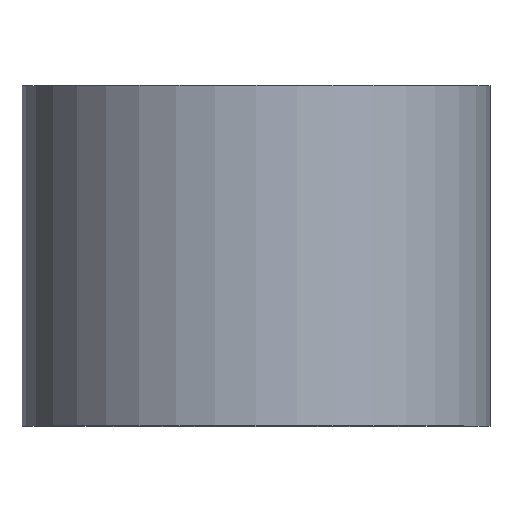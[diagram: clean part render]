
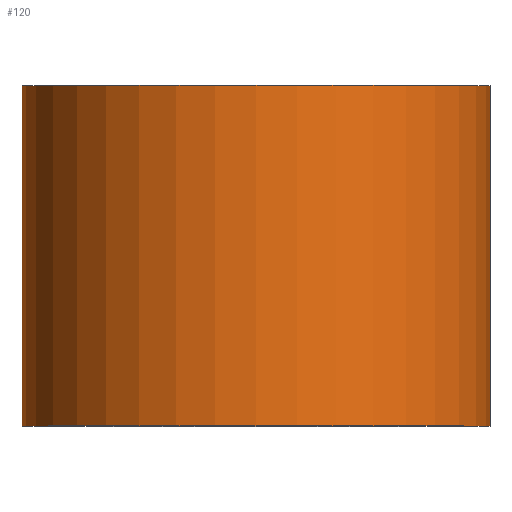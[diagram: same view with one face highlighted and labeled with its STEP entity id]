
A CAD part, top view. The second image highlights one B-rep face of the part: STEP entity #120.
In plain terms, the highlighted cylindrical face has radius 11 mm (diameter 22 mm), a partial arc.
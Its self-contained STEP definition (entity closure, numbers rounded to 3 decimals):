
#5 = EDGE_CURVE ( 'NONE', #97, #172, #259, .T. ) ;
#6 = CARTESIAN_POINT ( 'NONE',  ( 0., 0., 0. ) ) ;
#11 = DIRECTION ( 'NONE',  ( 0., 1., 0. ) ) ;
#16 = EDGE_LOOP ( 'NONE', ( #173, #43, #166, #221 ) ) ;
#32 = LINE ( 'NONE', #244, #246 ) ;
#39 = CARTESIAN_POINT ( 'NONE',  ( 11., 0., 0. ) ) ;
#42 = CYLINDRICAL_SURFACE ( 'NONE', #208, 11. ) ;
#43 = ORIENTED_EDGE ( 'NONE', *, *, #268, .T. ) ;
#53 = AXIS2_PLACEMENT_3D ( 'NONE', #179, #293, #108 ) ;
#61 = DIRECTION ( 'NONE',  ( 0., 1., 0. ) ) ;
#77 = DIRECTION ( 'NONE',  ( -1., 0., 0. ) ) ;
#97 = VERTEX_POINT ( 'NONE', #177 ) ;
#104 = DIRECTION ( 'NONE',  ( 0., 1., 0. ) ) ;
#108 = DIRECTION ( 'NONE',  ( -1., 0., 0. ) ) ;
#120 = ADVANCED_FACE ( 'NONE', ( #237 ), #42, .T. ) ;
#121 = VERTEX_POINT ( 'NONE', #39 ) ;
#129 = CARTESIAN_POINT ( 'NONE',  ( 11., 16., 0. ) ) ;
#134 = CIRCLE ( 'NONE', #53, 11. ) ;
#165 = VECTOR ( 'NONE', #61, 1000. ) ;
#166 = ORIENTED_EDGE ( 'NONE', *, *, #5, .F. ) ;
#172 = VERTEX_POINT ( 'NONE', #129 ) ;
#173 = ORIENTED_EDGE ( 'NONE', *, *, #213, .T. ) ;
#177 = CARTESIAN_POINT ( 'NONE',  ( -11., 16., 0. ) ) ;
#179 = CARTESIAN_POINT ( 'NONE',  ( 0., 0., 0. ) ) ;
#180 = CARTESIAN_POINT ( 'NONE',  ( 11., 0., 0. ) ) ;
#183 = LINE ( 'NONE', #180, #165 ) ;
#208 = AXIS2_PLACEMENT_3D ( 'NONE', #6, #288, #77 ) ;
#213 = EDGE_CURVE ( 'NONE', #250, #121, #134, .T. ) ;
#221 = ORIENTED_EDGE ( 'NONE', *, *, #256, .F. ) ;
#229 = AXIS2_PLACEMENT_3D ( 'NONE', #285, #104, #241 ) ;
#237 = FACE_OUTER_BOUND ( 'NONE', #16, .T. ) ;
#241 = DIRECTION ( 'NONE',  ( -1., 0., 0. ) ) ;
#244 = CARTESIAN_POINT ( 'NONE',  ( -11., 0., 0. ) ) ;
#246 = VECTOR ( 'NONE', #11, 1000. ) ;
#250 = VERTEX_POINT ( 'NONE', #291 ) ;
#256 = EDGE_CURVE ( 'NONE', #250, #97, #32, .T. ) ;
#259 = CIRCLE ( 'NONE', #229, 11. ) ;
#268 = EDGE_CURVE ( 'NONE', #121, #172, #183, .T. ) ;
#285 = CARTESIAN_POINT ( 'NONE',  ( 0., 16., 0. ) ) ;
#288 = DIRECTION ( 'NONE',  ( 0., 1., 0. ) ) ;
#291 = CARTESIAN_POINT ( 'NONE',  ( -11., 0., 0. ) ) ;
#293 = DIRECTION ( 'NONE',  ( 0., 1., 0. ) ) ;
